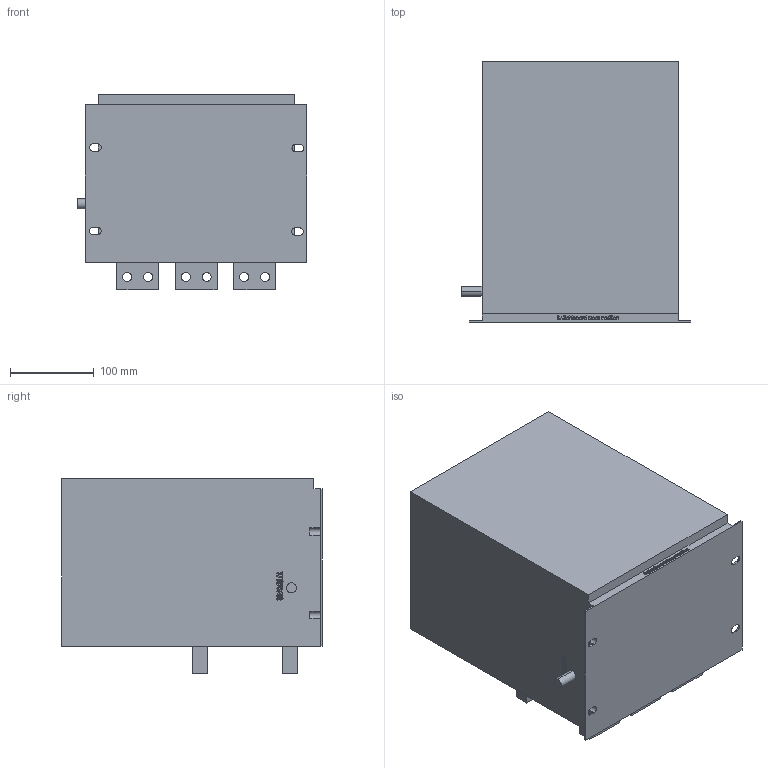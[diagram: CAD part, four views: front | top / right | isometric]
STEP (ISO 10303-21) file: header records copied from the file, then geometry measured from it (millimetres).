
FILE_DESCRIPTION (( 'STEP AP203' ), '1' );
FILE_NAME ('【3D示意图】BW-1600CN3P固定式(1600A).STEP', '2023-05-09T06:11:18', ( '' ), ( '' ), 'SwSTEP 2.0', 'SolidWorks 2017', '' );
FILE_SCHEMA (( 'CONFIG_CONTROL_DESIGN' ));
Length unit declared in the file: millimetre
Products named in the file (1): 【3D示意图】BW-1600CN3P固定式(1600A)
Bounding box: 275 x 312 x 233.5 mm (x, y, z)
Volume: 14875610.4 mm3; surface area: 410536.1 mm2
Topology: 1 solids, 1 shells, 683 faces, 1863 edges, 1242 vertices
Faces by surface type: plane 406, bspline 241, cylinder 36
Entity records: 32388 total; most frequent: CARTESIAN_POINT 16526, ORIENTED_EDGE 3726, DIRECTION 2347, EDGE_CURVE 1863, LINE 1301, VECTOR 1301, VERTEX_POINT 1242, EDGE_LOOP 775
